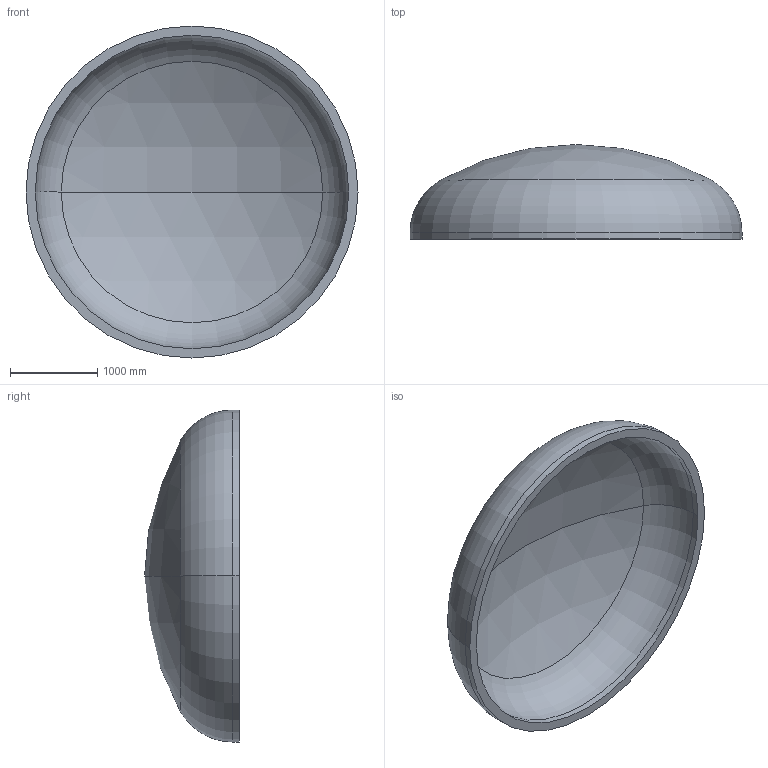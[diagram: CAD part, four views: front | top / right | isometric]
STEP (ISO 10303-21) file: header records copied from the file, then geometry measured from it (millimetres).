
FILE_DESCRIPTION (( 'STEP AP203' ), '1' );
FILE_NAME ('DIN 28013 Korbbogenform_-_Boden DIN 28013 - 3800 x 75 - I - s=106.step', '2016-07-01T21:50:19', ( '' ), ( '' ), 'SwSTEP 2.0', 'SolidWorks 2013', '' );
FILE_SCHEMA (( 'CONFIG_CONTROL_DESIGN' ));
Length unit declared in the file: millimetre
Products named in the file (1): DIN 28013 Korbbogenform_-_Boden DIN 28013 - 3800 x 75 - I - s=106
Bounding box: 3800 x 1084.33 x 3800 mm (x, y, z)
Volume: 1697445088.2 mm3; surface area: 33280922 mm2
Topology: 1 solids, 1 shells, 13 faces, 24 edges, 14 vertices
Faces by surface type: torus 4, cylinder 4, sphere 4, plane 1
Entity records: 407 total; most frequent: DIRECTION 72, CARTESIAN_POINT 52, ORIENTED_EDGE 48, AXIS2_PLACEMENT_3D 34, EDGE_CURVE 24, CIRCLE 20, EDGE_LOOP 14, VERTEX_POINT 14
